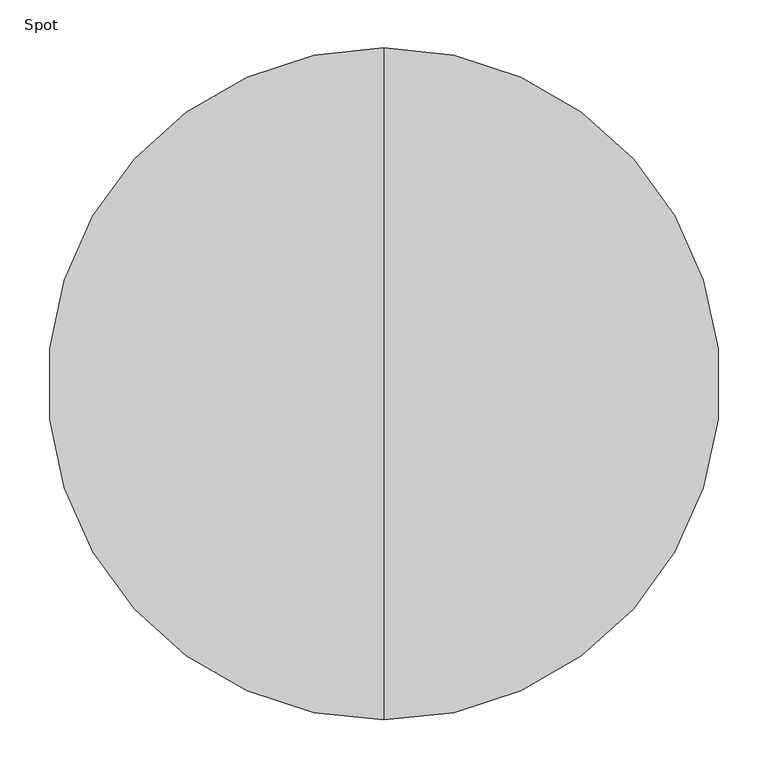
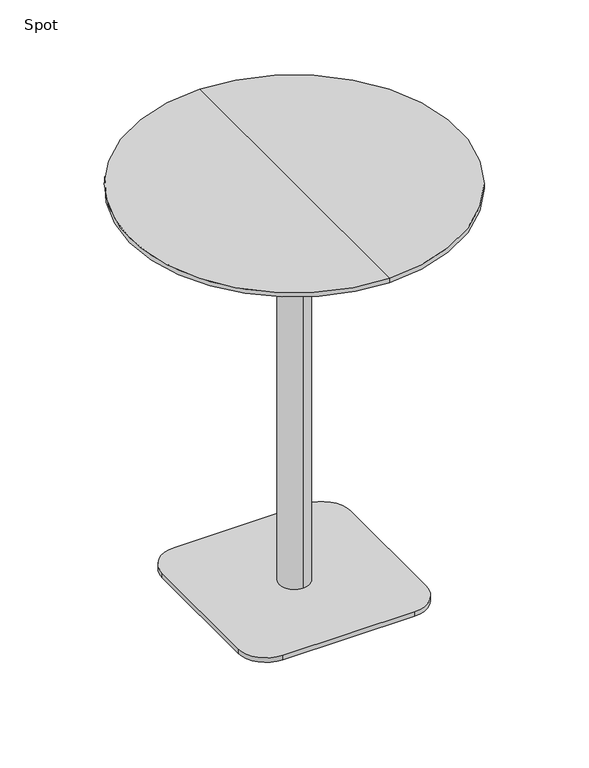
"""IFC4 building model written with IfcOpenShell, lengths in millimetres: furniture geometry, Spot : ø70x90s."""

from ifc_helpers import new_model, si_unit, point, frame, frame_2d, origin, origin_with_axes, place, context, project, spatial, polyline, circle_curve, trimmed, segment, composite_curve, outline, extrude, source, transform, mapped, element, save
from ifc_brep_helpers import plane_surface, cylinder_surface, revolved_surface, advanced_brep


def spot_7c4215b9(model_context):
    return source(origin(), model_context, "Body", "SolidModel", [
        advanced_brep(
        [(0.0, 350.0, 900.0), (0.0, -350.0, 900.0), (0.0, 0.0, 900.0), (0.0, 350.0, 890.25), (0.0, -350.0, 890.25), (0.0, 304.2823776, 878.0), (0.0, -304.2823776, 878.0), (0.0, 0.0, 878.0)],
        [
            (0, 1, circle_curve(frame((0.0, 0.0, 900.0), z_axis=(0.0, 0.0, 1.0), x_axis=(0.0, -1.0, 0.0)), 350.0)),
            (1, 2),
            (2, 0),
            (1, 0, circle_curve(frame((0.0, 0.0, 900.0), z_axis=(0.0, 0.0, 1.0), x_axis=(0.0, -1.0, 0.0)), 350.0)),
            (3, 4, circle_curve(frame((0.0, 0.0, 890.25), z_axis=(0.0, 0.0, 1.0), x_axis=(0.0, -1.0, 0.0)), 350.0)),
            (4, 1),
            (0, 3),
            (4, 3, circle_curve(frame((0.0, 0.0, 890.25), z_axis=(0.0, 0.0, 1.0), x_axis=(0.0, -1.0, 0.0)), 350.0)),
            (5, 6, circle_curve(frame((0.0, 0.0, 878.0), z_axis=(0.0, 0.0, 1.0), x_axis=(0.0, -1.0, 0.0)), 304.2823776)),
            (6, 4),
            (3, 5),
            (6, 5, circle_curve(frame((0.0, 0.0, 878.0), z_axis=(0.0, 0.0, 1.0), x_axis=(0.0, -1.0, 0.0)), 304.2823776)),
            (7, 6),
            (5, 7),
        ],
        [
            plane_surface(frame((0.0, 0.0, 900.0), z_axis=(0.0, 0.0, 1.0), x_axis=(0.0, -1.0, 0.0))),
            cylinder_surface(frame((0.0, 0.0, 980.0), z_axis=(0.0, 0.0, -1.0), x_axis=(0.0, -1.0, 0.0)), 350.0),
            revolved_surface(polyline([(0.0, -350.0, 890.25), (0.0, -304.2823776, 878.0)]), (0.0, 0.0, 980.0), (0.0, 0.0, -1.0)),
            plane_surface(frame((0.0, 0.0, 878.0), z_axis=(0.0, 0.0, -1.0), x_axis=(0.0, -1.0, 0.0))),
        ],
        [
            (0, [[1, 2, 3]]),
            (0, [[4, -3, -2]]),
            (1, [[5, 6, -1, 7]]),
            (1, [[8, -7, -4, -6]]),
            (2, [[9, 10, -5, 11]]),
            (2, [[12, -11, -8, -10]]),
            (3, [[13, -9, 14]]),
            (3, [[-14, -12, -13]]),
        ],
    ),
        extrude(outline(composite_curve([segment(trimmed(circle_curve(frame_2d((140.0, 140.0)), 60.0), [point((140.0, 200.0))], [point((200.0, 140.0))], False, "CARTESIAN"), True, "CONTINUOUS"), segment(polyline([(200.0, 140.0), (200.0, -140.0)]), True, "CONTINUOUS"), segment(trimmed(circle_curve(frame_2d((140.0, -140.0)), 60.0), [point((200.0, -140.0))], [point((140.0, -200.0))], False, "CARTESIAN"), True, "CONTINUOUS"), segment(polyline([(140.0, -200.0), (-140.0, -200.0)]), True, "CONTINUOUS"), segment(trimmed(circle_curve(frame_2d((-140.0, -140.0)), 60.0), [point((-140.0, -200.0))], [point((-200.0, -140.0))], False, "CARTESIAN"), True, "CONTINUOUS"), segment(polyline([(-200.0, -140.0), (-200.0, 140.0)]), True, "CONTINUOUS"), segment(trimmed(circle_curve(frame_2d((-140.0, 140.0)), 60.0), [point((-200.0, 140.0))], [point((-140.0, 200.0))], False, "CARTESIAN"), True, "CONTINUOUS"), segment(polyline([(-140.0, 200.0), (140.0, 200.0)]), True, "CONTINUOUS")], self_intersect=False)), origin_with_axes(), (0.0, 0.0, 1.0), 10.0),
        advanced_brep(
        [(0.0, 32.0, 10.0), (0.0, -32.0, 10.0), (0.0, -32.0, 847.406916), (0.0, 32.0, 847.406916), (0.0, 0.0, 10.0), (0.0, 150.0, 878.0), (0.0, -150.0, 878.0), (0.0, 0.0, 878.0), (0.0, 150.0, 866.7213673), (0.0, -150.0, 866.7213673)],
        [
            (0, 1, circle_curve(frame((0.0, 0.0, 10.0), z_axis=(0.0, 0.0, 1.0), x_axis=(0.0, -1.0, 0.0)), 32.0)),
            (1, 2),
            (2, 3, circle_curve(frame((0.0, 0.0, 847.406916), z_axis=(0.0, 0.0, -1.0), x_axis=(0.0, -1.0, 0.0)), 32.0)),
            (3, 0),
            (1, 0, circle_curve(frame((0.0, 0.0, 10.0), z_axis=(0.0, 0.0, 1.0), x_axis=(0.0, -1.0, 0.0)), 32.0)),
            (3, 2, circle_curve(frame((0.0, 0.0, 847.406916), z_axis=(0.0, 0.0, -1.0), x_axis=(0.0, -1.0, 0.0)), 32.0)),
            (4, 1),
            (0, 4),
            (5, 6, circle_curve(frame((0.0, 0.0, 878.0), z_axis=(0.0, 0.0, 1.0), x_axis=(0.0, -1.0, 0.0)), 150.0)),
            (6, 7),
            (7, 5),
            (6, 5, circle_curve(frame((0.0, 0.0, 878.0), z_axis=(0.0, 0.0, 1.0), x_axis=(0.0, -1.0, 0.0)), 150.0)),
            (8, 9, circle_curve(frame((0.0, 0.0, 866.7213673), z_axis=(0.0, 0.0, 1.0), x_axis=(0.0, -1.0, 0.0)), 150.0)),
            (9, 6),
            (5, 8),
            (9, 8, circle_curve(frame((0.0, 0.0, 866.7213673), z_axis=(0.0, 0.0, 1.0), x_axis=(0.0, -1.0, 0.0)), 150.0)),
            (2, 9),
            (8, 3),
        ],
        [
            cylinder_surface(frame((0.0, 0.0, 1240.0), z_axis=(0.0, 0.0, -1.0), x_axis=(0.0, -1.0, 0.0)), 32.0),
            plane_surface(frame((0.0, 0.0, 10.0), z_axis=(0.0, 0.0, -1.0), x_axis=(0.0, -1.0, 0.0))),
            plane_surface(frame((0.0, 0.0, 878.0), z_axis=(0.0, 0.0, 1.0), x_axis=(0.0, -1.0, 0.0))),
            cylinder_surface(frame((0.0, 0.0, 1240.0), z_axis=(0.0, 0.0, -1.0), x_axis=(0.0, -1.0, 0.0)), 150.0),
            revolved_surface(polyline([(0.0, -150.0, 866.7213673), (0.0, -32.0, 847.406916)]), (0.0, 0.0, 1240.0), (0.0, 0.0, -1.0)),
        ],
        [
            (0, [[1, 2, 3, 4]]),
            (0, [[5, -4, 6, -2]]),
            (1, [[7, -1, 8]]),
            (1, [[-8, -5, -7]]),
            (2, [[9, 10, 11]]),
            (2, [[12, -11, -10]]),
            (3, [[13, 14, -9, 15]]),
            (3, [[16, -15, -12, -14]]),
            (4, [[-3, 17, -13, 18]]),
            (4, [[-6, -18, -16, -17]]),
        ],
    ),
        extrude(outline(polyline([(0.0, 0.0), (-20.0, 0.0), (-20.0, 20.0), (0.0, 20.0), (0.0, 0.0)])), origin_with_axes(), (0.0, 0.0, 1.0), 10.0),
    ])


if __name__ == "__main__":
    model = new_model("IFC4")
    model_context = context("Model", 3, world=origin())
    ifc_project = project(units=[si_unit("LENGTHUNIT", "METRE", prefix="MILLI")], contexts=[model_context])
    site = spatial("IfcSite", under=ifc_project)
    building = spatial("IfcBuilding", under=site)
    placement = place(None, origin())
    spot_shape = spot_7c4215b9(model_context)
    element("IfcFurniture", 1, ObjectType="Spot : ø70x90s", at=placement, inside=building, context=model_context, shape_type="MappedRepresentation", body=[
        mapped(spot_shape, transform((0.0, 0.0, 0.0), x_axis=(1.0, 0.0, 0.0), y_axis=(0.0, 1.0, 0.0), z_axis=(0.0, 0.0, 1.0))),
    ])
    save(model, "model.ifc")
